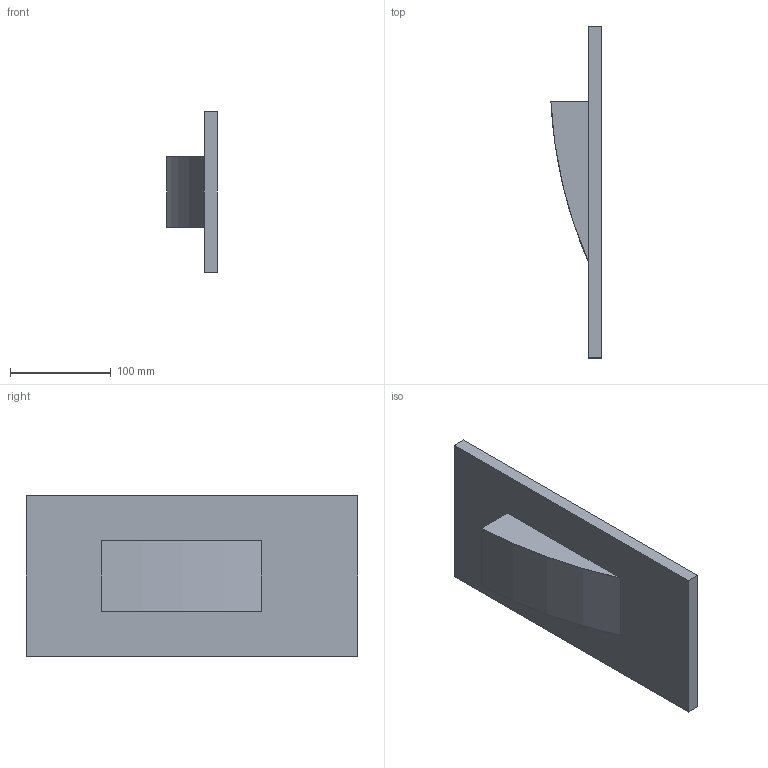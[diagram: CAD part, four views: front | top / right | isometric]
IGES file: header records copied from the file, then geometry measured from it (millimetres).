
Start section: SolidWorks IGES file using analytic representation for surfaces
Global section: file name: C:\Users\Stagiaire\Desktop\Rendu 3D\SLOT XL\3030 SLOT XL2\3030 SLOT XL2.IGS; native system: SolidWorks 2014; preprocessor: SolidWorks 2014; author: Stagiaire; date: 140911.163750; units: millimetre
Bounding box: 50 x 330 x 160 mm (x, y, z)
Surface area: 141498.9 mm2 (no closed solid volume)
Topology: 0 solids, 0 shells, 14 faces, 88 edges, 88 vertices
Faces by surface type: bspline 12, revolution 2
